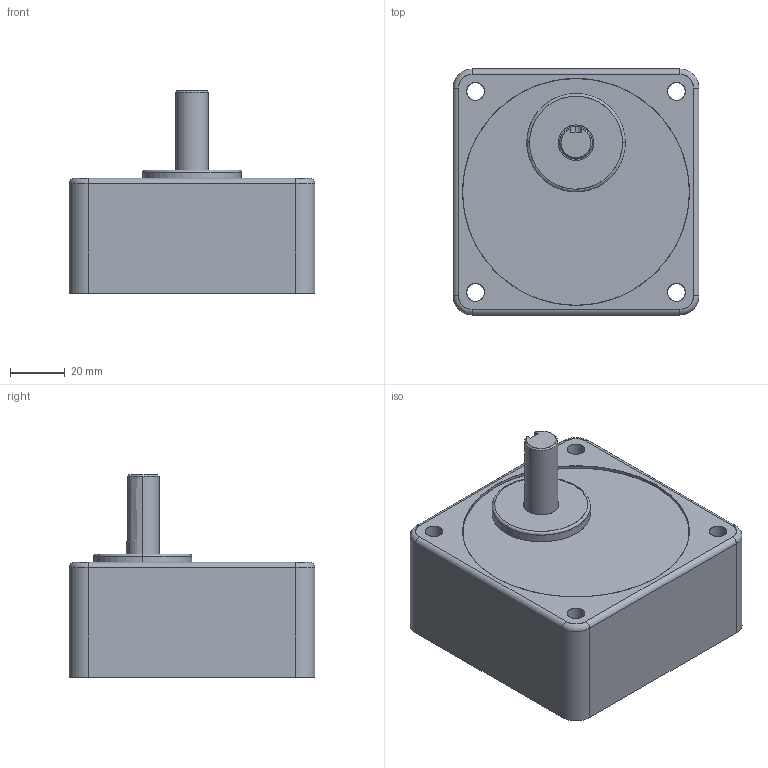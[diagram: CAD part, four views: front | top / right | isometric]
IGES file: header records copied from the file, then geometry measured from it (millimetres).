
Start section: SolidWorks IGES file using analytic representation for surfaces
Global section: file name: C:\Documents and Settings\user\ｹﾙﾅﾁ ﾈｭｸ饅(12-7) 9GBK｡滷MH(2~18).IGS,1; native system: 5HSolidWorks 2007; preprocessor: SolidWorks 2007; author: user; date: 150825.152637; units: millimetre
Bounding box: 90 x 90 x 74 mm (x, y, z)
Surface area: 37736.4 mm2 (no closed solid volume)
Topology: 0 solids, 0 shells, 54 faces, 1141 edges, 1141 vertices
Faces by surface type: revolution 33, bspline 21
